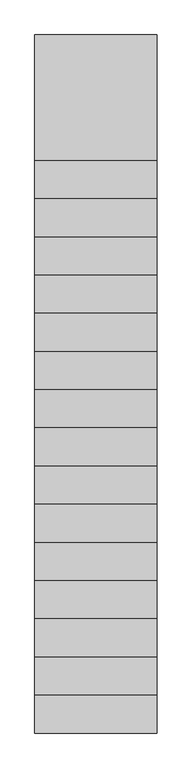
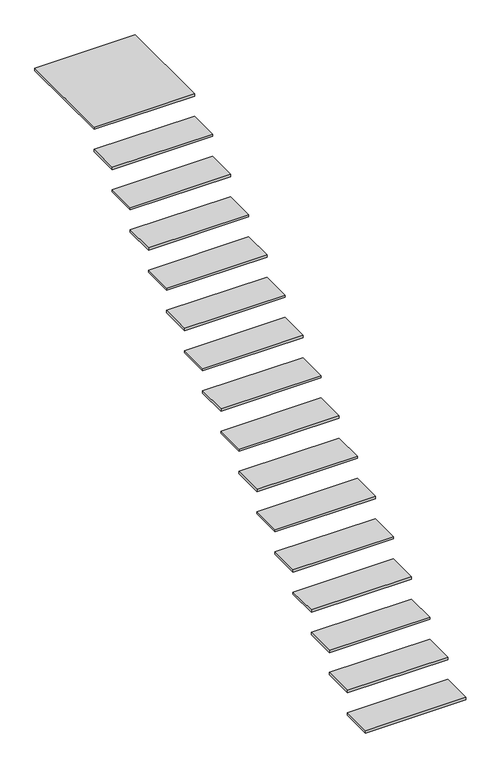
"""IFC4 building model written with IfcOpenShell, lengths in millimetres: stair flight geometry, Peldaños de acero."""

from ifc_helpers import new_model, si_unit, frame, origin, place, context, project, spatial, polyline, outline, extrude, source, transform, mapped, element, save


def stair_flight_a7d8fed5(model_context):
    return source(origin(), model_context, "Body", "SweptSolid", [
        extrude(outline(polyline([(2935.5350958, -5012.6669037), (3735.5350958, -5012.6669037), (3735.5350958, -5262.6669037), (2935.5350958, -5262.6669037), (2935.5350958, -5012.6669037)])), frame((0.0, 0.0, 3417.5), z_axis=(0.0, 0.0, 1.0), x_axis=(1.0, 0.0, 0.0)), (0.0, 0.0, 1.0), 20.0),
        extrude(outline(polyline([(2935.5350958, -4762.6669037), (3735.5350958, -4762.6669037), (3735.5350958, -5012.6669037), (2935.5350958, -5012.6669037), (2935.5350958, -4762.6669037)])), frame((0.0, 0.0, 3605.0), z_axis=(0.0, 0.0, 1.0), x_axis=(1.0, 0.0, 0.0)), (0.0, 0.0, 1.0), 20.0),
        extrude(outline(polyline([(2935.5350958, -4512.6669037), (3735.5350958, -4512.6669037), (3735.5350958, -4762.6669037), (2935.5350958, -4762.6669037), (2935.5350958, -4512.6669037)])), frame((0.0, 0.0, 3792.5), z_axis=(0.0, 0.0, 1.0), x_axis=(1.0, 0.0, 0.0)), (0.0, 0.0, 1.0), 20.0),
        extrude(outline(polyline([(2935.5350958, -4262.6669037), (3735.5350958, -4262.6669037), (3735.5350958, -4512.6669037), (2935.5350958, -4512.6669037), (2935.5350958, -4262.6669037)])), frame((0.0, 0.0, 3980.0), z_axis=(0.0, 0.0, 1.0), x_axis=(1.0, 0.0, 0.0)), (0.0, 0.0, 1.0), 20.0),
        extrude(outline(polyline([(2935.5350958, -4012.6669037), (3735.5350958, -4012.6669037), (3735.5350958, -4262.6669037), (2935.5350958, -4262.6669037), (2935.5350958, -4012.6669037)])), frame((0.0, 0.0, 4167.5), z_axis=(0.0, 0.0, 1.0), x_axis=(1.0, 0.0, 0.0)), (0.0, 0.0, 1.0), 20.0),
        extrude(outline(polyline([(2935.5350958, -3762.6669037), (3735.5350958, -3762.6669037), (3735.5350958, -4012.6669037), (2935.5350958, -4012.6669037), (2935.5350958, -3762.6669037)])), frame((0.0, 0.0, 4355.0), z_axis=(0.0, 0.0, 1.0), x_axis=(1.0, 0.0, 0.0)), (0.0, 0.0, 1.0), 20.0),
        extrude(outline(polyline([(2935.5350958, -3512.6669037), (3735.5350958, -3512.6669037), (3735.5350958, -3762.6669037), (2935.5350958, -3762.6669037), (2935.5350958, -3512.6669037)])), frame((0.0, 0.0, 4542.5), z_axis=(0.0, 0.0, 1.0), x_axis=(1.0, 0.0, 0.0)), (0.0, 0.0, 1.0), 20.0),
        extrude(outline(polyline([(2935.5350958, -3262.6669037), (3735.5350958, -3262.6669037), (3735.5350958, -3512.6669037), (2935.5350958, -3512.6669037), (2935.5350958, -3262.6669037)])), frame((0.0, 0.0, 4730.0), z_axis=(0.0, 0.0, 1.0), x_axis=(1.0, 0.0, 0.0)), (0.0, 0.0, 1.0), 20.0),
        extrude(outline(polyline([(2935.5350958, -3012.6669037), (3735.5350958, -3012.6669037), (3735.5350958, -3262.6669037), (2935.5350958, -3262.6669037), (2935.5350958, -3012.6669037)])), frame((0.0, 0.0, 4917.5), z_axis=(0.0, 0.0, 1.0), x_axis=(1.0, 0.0, 0.0)), (0.0, 0.0, 1.0), 20.0),
        extrude(outline(polyline([(2935.5350958, -2762.6669037), (3735.5350958, -2762.6669037), (3735.5350958, -3012.6669037), (2935.5350958, -3012.6669037), (2935.5350958, -2762.6669037)])), frame((0.0, 0.0, 5105.0), z_axis=(0.0, 0.0, 1.0), x_axis=(1.0, 0.0, 0.0)), (0.0, 0.0, 1.0), 20.0),
        extrude(outline(polyline([(2935.5350958, -2512.6669037), (3735.5350958, -2512.6669037), (3735.5350958, -2762.6669037), (2935.5350958, -2762.6669037), (2935.5350958, -2512.6669037)])), frame((0.0, 0.0, 5292.5), z_axis=(0.0, 0.0, 1.0), x_axis=(1.0, 0.0, 0.0)), (0.0, 0.0, 1.0), 20.0),
        extrude(outline(polyline([(2935.5350958, -2262.6669037), (3735.5350958, -2262.6669037), (3735.5350958, -2512.6669037), (2935.5350958, -2512.6669037), (2935.5350958, -2262.6669037)])), frame((0.0, 0.0, 5480.0), z_axis=(0.0, 0.0, 1.0), x_axis=(1.0, 0.0, 0.0)), (0.0, 0.0, 1.0), 20.0),
        extrude(outline(polyline([(2935.5350958, -2012.6669037), (3735.5350958, -2012.6669037), (3735.5350958, -2262.6669037), (2935.5350958, -2262.6669037), (2935.5350958, -2012.6669037)])), frame((0.0, 0.0, 5667.5), z_axis=(0.0, 0.0, 1.0), x_axis=(1.0, 0.0, 0.0)), (0.0, 0.0, 1.0), 20.0),
        extrude(outline(polyline([(2935.5350958, -1762.6669037), (3735.5350958, -1762.6669037), (3735.5350958, -2012.6669037), (2935.5350958, -2012.6669037), (2935.5350958, -1762.6669037)])), frame((0.0, 0.0, 5855.0), z_axis=(0.0, 0.0, 1.0), x_axis=(1.0, 0.0, 0.0)), (0.0, 0.0, 1.0), 20.0),
        extrude(outline(polyline([(2935.5350958, -1512.6669037), (3735.5350958, -1512.6669037), (3735.5350958, -1762.6669037), (2935.5350958, -1762.6669037), (2935.5350958, -1512.6669037)])), frame((0.0, 0.0, 6042.5), z_axis=(0.0, 0.0, 1.0), x_axis=(1.0, 0.0, 0.0)), (0.0, 0.0, 1.0), 20.0),
        extrude(outline(polyline([(2935.5350958, -693.1853621), (3735.5350958, -693.1853621), (3735.5350958, -1512.6669037), (2935.5350958, -1512.6669037), (2935.5350958, -693.1853621)])), frame((0.0, 0.0, 6230.0), z_axis=(0.0, 0.0, 1.0), x_axis=(1.0, 0.0, 0.0)), (0.0, 0.0, 1.0), 20.0),
    ])


if __name__ == "__main__":
    model = new_model("IFC4")
    model_context = context("Model", 3, world=origin())
    ifc_project = project(units=[si_unit("LENGTHUNIT", "METRE", prefix="MILLI")], contexts=[model_context])
    site = spatial("IfcSite", under=ifc_project)
    building = spatial("IfcBuilding", under=site)
    placement = place(None, origin())
    stair_flight_shape = stair_flight_a7d8fed5(model_context)
    element("IfcStairFlight", 1, ObjectType="Peldaños de acero", at=placement, inside=building, context=model_context, shape_type="MappedRepresentation", body=[
        mapped(stair_flight_shape, transform((0.0, 0.0, 0.0), x_axis=(1.0, 0.0, 0.0), y_axis=(0.0, 1.0, 0.0), z_axis=(0.0, 0.0, 1.0))),
    ])
    save(model, "model.ifc")
